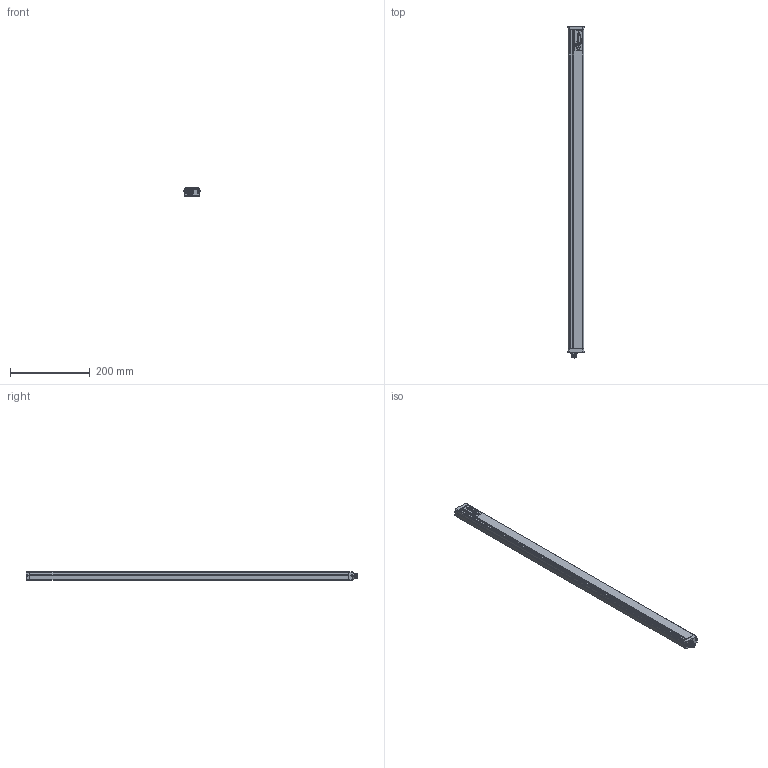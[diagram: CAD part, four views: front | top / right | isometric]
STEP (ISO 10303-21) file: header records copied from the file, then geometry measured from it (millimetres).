
FILE_DESCRIPTION(/* description */ (''),/* implementation_level */ '2;1');
FILE_NAME(/* name */ 'C:\Users\andre\SynologyDrive\Optoscan\Libreria Componenti\00 - Barriere\Barriera sorgente\Argo_800_TX.stp',/* time_stamp */ '2021-04-22T10:19:40+02:00',/* author */ ('andre'),/* organization */ (''),/* preprocessor_version */ 'ST-DEVELOPER v18',/* originating_system */ 'Autodesk Inventor 2020',/* authorisation */ '');
FILE_SCHEMA (('AUTOMOTIVE_DESIGN { 1 0 10303 214 3 1 1 }'));
Length unit declared in the file: millimetre
Products named in the file (1): Argo_800_TX
Bounding box: 40.5 x 833.3 x 20.75 mm (x, y, z)
Volume: 167209 mm3; surface area: 216511.6 mm2
Topology: 1 solids, 1 shells, 696 faces, 1911 edges, 1225 vertices
Faces by surface type: plane 321, cylinder 195, bspline 94, torus 72, cone 8, sphere 6
Full cylindrical faces by diameter (mm): 1 x4, 2.459 x4, 2.5 x4, 3 x4, 3.5 x4, 5.5 x4, 8 x1, 10.5 x2, 11.75 x9, 15.7 x1, 17.5 x1
Entity records: 30770 total; most frequent: CARTESIAN_POINT 12670, ORIENTED_EDGE 3806, DIRECTION 3415, EDGE_CURVE 1903, VERTEX_POINT 1225, AXIS2_PLACEMENT_3D 1193, LINE 1029, VECTOR 1029
